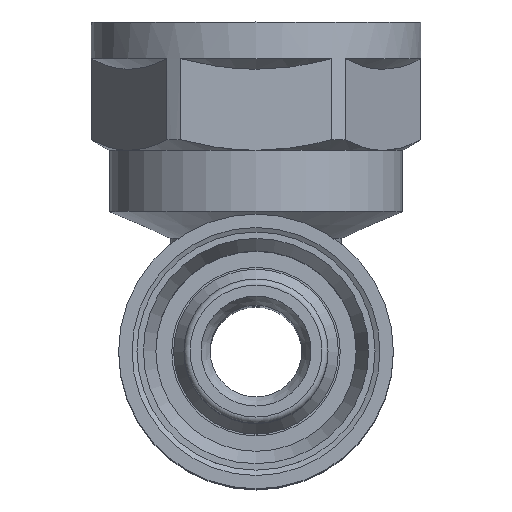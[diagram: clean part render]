
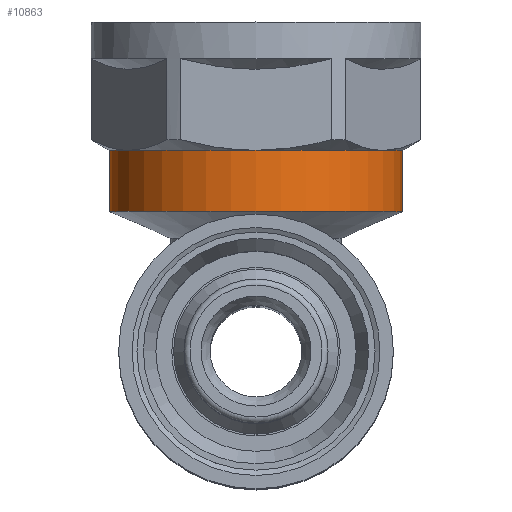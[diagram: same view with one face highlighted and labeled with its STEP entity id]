
A CAD part, top view. The second image highlights one B-rep face of the part: STEP entity #10863.
In plain terms, the highlighted cylindrical face has radius 12 mm (diameter 24 mm), a full revolution.
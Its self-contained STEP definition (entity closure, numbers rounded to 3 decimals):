
#1074=CYLINDRICAL_SURFACE('',#11589,12.);
#1204=LINE('',#14874,#1870);
#1870=VECTOR('',#12452,12.);
#2708=FACE_OUTER_BOUND('',#3326,.T.);
#3326=EDGE_LOOP('',(#7518,#7519,#7520,#7521,#7522,#7523,#7524,#7525,#7526,
#7527));
#3975=CIRCLE('',#11519,12.);
#3977=CIRCLE('',#11522,12.);
#3979=CIRCLE('',#11525,12.);
#3980=CIRCLE('',#11527,12.);
#3982=CIRCLE('',#11530,12.);
#3984=CIRCLE('',#11533,12.);
#4013=CIRCLE('',#11590,12.);
#4014=CIRCLE('',#11591,12.);
#4416=VERTEX_POINT('',#14420);
#4418=VERTEX_POINT('',#14426);
#4420=VERTEX_POINT('',#14433);
#4423=VERTEX_POINT('',#14445);
#4426=VERTEX_POINT('',#14460);
#4429=VERTEX_POINT('',#14472);
#4496=VERTEX_POINT('',#14870);
#4497=VERTEX_POINT('',#14871);
#5594=EDGE_CURVE('',#4416,#4418,#3975,.T.);
#5598=EDGE_CURVE('',#4420,#4416,#3977,.T.);
#5602=EDGE_CURVE('',#4423,#4420,#3979,.T.);
#5604=EDGE_CURVE('',#4426,#4423,#3980,.T.);
#5608=EDGE_CURVE('',#4429,#4426,#3982,.T.);
#5612=EDGE_CURVE('',#4418,#4429,#3984,.T.);
#5705=EDGE_CURVE('',#4496,#4497,#4013,.T.);
#5706=EDGE_CURVE('',#4497,#4496,#4014,.T.);
#5707=EDGE_CURVE('',#4497,#4420,#1204,.T.);
#7518=ORIENTED_EDGE('',*,*,#5705,.F.);
#7519=ORIENTED_EDGE('',*,*,#5706,.F.);
#7520=ORIENTED_EDGE('',*,*,#5707,.T.);
#7521=ORIENTED_EDGE('',*,*,#5598,.T.);
#7522=ORIENTED_EDGE('',*,*,#5594,.T.);
#7523=ORIENTED_EDGE('',*,*,#5612,.T.);
#7524=ORIENTED_EDGE('',*,*,#5608,.T.);
#7525=ORIENTED_EDGE('',*,*,#5604,.T.);
#7526=ORIENTED_EDGE('',*,*,#5602,.T.);
#7527=ORIENTED_EDGE('',*,*,#5707,.F.);
#10863=ADVANCED_FACE('',(#2708),#1074,.T.);
#11519=AXIS2_PLACEMENT_3D('',#14430,#12268,#12269);
#11522=AXIS2_PLACEMENT_3D('',#14442,#12274,#12275);
#11525=AXIS2_PLACEMENT_3D('',#14454,#12280,#12281);
#11527=AXIS2_PLACEMENT_3D('',#14461,#12284,#12285);
#11530=AXIS2_PLACEMENT_3D('',#14473,#12290,#12291);
#11533=AXIS2_PLACEMENT_3D('',#14484,#12296,#12297);
#11589=AXIS2_PLACEMENT_3D('',#14869,#12446,#12447);
#11590=AXIS2_PLACEMENT_3D('',#14872,#12448,#12449);
#11591=AXIS2_PLACEMENT_3D('',#14873,#12450,#12451);
#12268=DIRECTION('center_axis',(0.,-1.,0.));
#12269=DIRECTION('ref_axis',(0.,0.,-1.));
#12274=DIRECTION('center_axis',(0.,-1.,0.));
#12275=DIRECTION('ref_axis',(0.,0.,-1.));
#12280=DIRECTION('center_axis',(0.,-1.,0.));
#12281=DIRECTION('ref_axis',(0.,0.,-1.));
#12284=DIRECTION('center_axis',(0.,-1.,0.));
#12285=DIRECTION('ref_axis',(0.,0.,-1.));
#12290=DIRECTION('center_axis',(0.,-1.,0.));
#12291=DIRECTION('ref_axis',(0.,0.,-1.));
#12296=DIRECTION('center_axis',(0.,-1.,0.));
#12297=DIRECTION('ref_axis',(0.,0.,-1.));
#12446=DIRECTION('center_axis',(0.,-1.,0.));
#12447=DIRECTION('ref_axis',(0.,0.,-1.));
#12448=DIRECTION('center_axis',(0.,-1.,0.));
#12449=DIRECTION('ref_axis',(1.,0.,0.));
#12450=DIRECTION('center_axis',(0.,-1.,0.));
#12451=DIRECTION('ref_axis',(1.,0.,0.));
#12452=DIRECTION('',(0.,1.,0.));
#14420=CARTESIAN_POINT('',(-10.392,16.5,51.));
#14426=CARTESIAN_POINT('',(-10.392,16.5,39.));
#14430=CARTESIAN_POINT('Origin',(0.,16.5,45.));
#14433=CARTESIAN_POINT('',(0.,16.5,57.));
#14442=CARTESIAN_POINT('Origin',(0.,16.5,45.));
#14445=CARTESIAN_POINT('',(10.392,16.5,51.));
#14454=CARTESIAN_POINT('Origin',(0.,16.5,45.));
#14460=CARTESIAN_POINT('',(10.392,16.5,39.));
#14461=CARTESIAN_POINT('Origin',(0.,16.5,45.));
#14472=CARTESIAN_POINT('',(0.,16.5,33.));
#14473=CARTESIAN_POINT('Origin',(0.,16.5,45.));
#14484=CARTESIAN_POINT('Origin',(0.,16.5,45.));
#14869=CARTESIAN_POINT('Origin',(0.,17.317,45.));
#14870=CARTESIAN_POINT('',(0.,11.5,33.));
#14871=CARTESIAN_POINT('',(0.,11.5,57.));
#14872=CARTESIAN_POINT('Origin',(0.,11.5,45.));
#14873=CARTESIAN_POINT('Origin',(0.,11.5,45.));
#14874=CARTESIAN_POINT('',(0.,17.317,57.));
